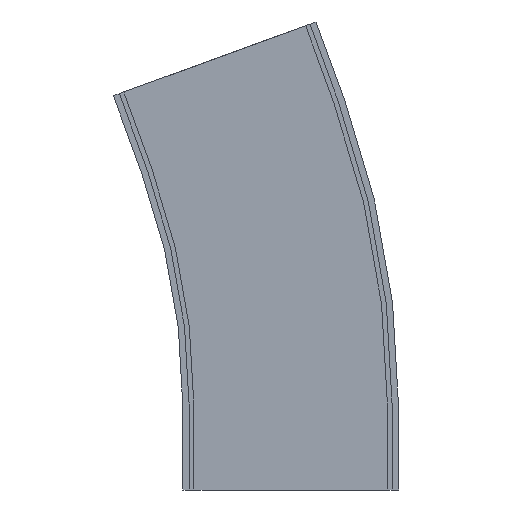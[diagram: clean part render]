
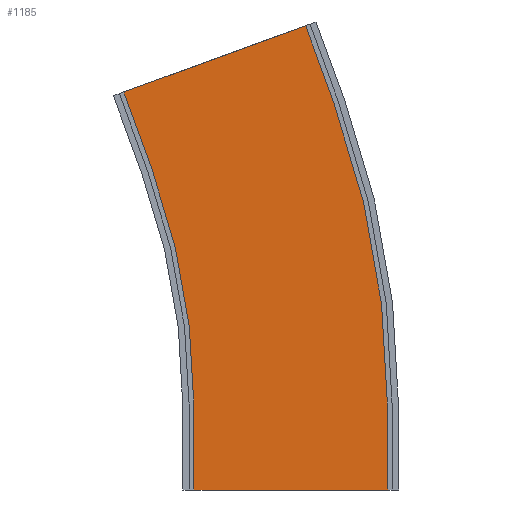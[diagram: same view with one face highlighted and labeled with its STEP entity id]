
A CAD part, left-side view. The second image highlights one B-rep face of the part: STEP entity #1185.
In plain terms, the highlighted planar face has unit normal (-1, 0, 0).
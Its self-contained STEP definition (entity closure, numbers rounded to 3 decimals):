
#8 = DIRECTION ( 'NONE',  ( 0., 0., 1. ) ) ;
#36 = EDGE_CURVE ( 'NONE', #846, #225, #151, .T. ) ;
#59 = PLANE ( 'NONE',  #1272 ) ;
#67 = LINE ( 'NONE', #1229, #285 ) ;
#76 = VERTEX_POINT ( 'NONE', #153 ) ;
#97 = EDGE_CURVE ( 'NONE', #76, #884, #67, .T. ) ;
#126 = VECTOR ( 'NONE', #425, 1000. ) ;
#137 = ORIENTED_EDGE ( 'NONE', *, *, #290, .T. ) ;
#151 = LINE ( 'NONE', #668, #484 ) ;
#153 = CARTESIAN_POINT ( 'NONE',  ( -249.5, 87.71, 202.561 ) ) ;
#164 = CIRCLE ( 'NONE', #341, 561.25 ) ;
#186 = DIRECTION ( 'NONE',  ( 0., 0., 1. ) ) ;
#200 = ORIENTED_EDGE ( 'NONE', *, *, #97, .F. ) ;
#225 = VERTEX_POINT ( 'NONE', #596 ) ;
#250 = ORIENTED_EDGE ( 'NONE', *, *, #1189, .F. ) ;
#278 = DIRECTION ( 'NONE',  ( 1., 0., 0. ) ) ;
#285 = VECTOR ( 'NONE', #680, 1000. ) ;
#290 = EDGE_CURVE ( 'NONE', #982, #379, #164, .T. ) ;
#298 = CARTESIAN_POINT ( 'NONE',  ( -249.5, -27.402, 244.459 ) ) ;
#341 = AXIS2_PLACEMENT_3D ( 'NONE', #1135, #1243, #186 ) ;
#344 = LINE ( 'NONE', #1363, #889 ) ;
#379 = VERTEX_POINT ( 'NONE', #298 ) ;
#400 = CIRCLE ( 'NONE', #1372, 438.75 ) ;
#425 = DIRECTION ( 'NONE',  ( 0., 0., -1. ) ) ;
#440 = EDGE_CURVE ( 'NONE', #846, #76, #400, .T. ) ;
#469 = DIRECTION ( 'NONE',  ( 0., -1., 0. ) ) ;
#484 = VECTOR ( 'NONE', #771, 1000. ) ;
#494 = VECTOR ( 'NONE', #469, 1000. ) ;
#498 = ORIENTED_EDGE ( 'NONE', *, *, #764, .T. ) ;
#573 = CARTESIAN_POINT ( 'NONE',  ( -249.5, 105.666, 251.895 ) ) ;
#577 = CARTESIAN_POINT ( 'NONE',  ( -249.5, 61.25, 52.5 ) ) ;
#596 = CARTESIAN_POINT ( 'NONE',  ( -249.5, 61.25, 0. ) ) ;
#601 = CARTESIAN_POINT ( 'NONE',  ( -249.5, -61.25, 0. ) ) ;
#634 = ORIENTED_EDGE ( 'NONE', *, *, #1057, .T. ) ;
#648 = DIRECTION ( 'NONE',  ( 0., 0.342, 0.94 ) ) ;
#668 = CARTESIAN_POINT ( 'NONE',  ( -249.5, 61.25, 52.5 ) ) ;
#680 = DIRECTION ( 'NONE',  ( 0., 0.342, 0.94 ) ) ;
#712 = LINE ( 'NONE', #601, #494 ) ;
#764 = EDGE_CURVE ( 'NONE', #379, #1268, #947, .T. ) ;
#771 = DIRECTION ( 'NONE',  ( 0., 0., -1. ) ) ;
#772 = ORIENTED_EDGE ( 'NONE', *, *, #1035, .F. ) ;
#774 = CARTESIAN_POINT ( 'NONE',  ( -249.5, -27.402, 244.459 ) ) ;
#818 = CARTESIAN_POINT ( 'NONE',  ( -249.5, -61.25, 0. ) ) ;
#827 = FACE_OUTER_BOUND ( 'NONE', #851, .T. ) ;
#846 = VERTEX_POINT ( 'NONE', #577 ) ;
#851 = EDGE_LOOP ( 'NONE', ( #634, #250, #137, #498, #772, #200, #1152, #949 ) ) ;
#884 = VERTEX_POINT ( 'NONE', #573 ) ;
#885 = CARTESIAN_POINT ( 'NONE',  ( -249.5, -61.25, 52.5 ) ) ;
#889 = VECTOR ( 'NONE', #1032, 1000. ) ;
#925 = CARTESIAN_POINT ( 'NONE',  ( -249.5, -61.25, 52.5 ) ) ;
#947 = LINE ( 'NONE', #774, #980 ) ;
#949 = ORIENTED_EDGE ( 'NONE', *, *, #36, .T. ) ;
#980 = VECTOR ( 'NONE', #648, 1000. ) ;
#982 = VERTEX_POINT ( 'NONE', #885 ) ;
#1031 = CARTESIAN_POINT ( 'NONE',  ( -249.5, -9.446, 293.793 ) ) ;
#1032 = DIRECTION ( 'NONE',  ( 0., -0.94, 0.342 ) ) ;
#1035 = EDGE_CURVE ( 'NONE', #884, #1268, #344, .T. ) ;
#1057 = EDGE_CURVE ( 'NONE', #225, #1184, #712, .T. ) ;
#1084 = DIRECTION ( 'NONE',  ( -1., 0., 0. ) ) ;
#1135 = CARTESIAN_POINT ( 'NONE',  ( -249.5, 500., 52.5 ) ) ;
#1152 = ORIENTED_EDGE ( 'NONE', *, *, #440, .F. ) ;
#1180 = CARTESIAN_POINT ( 'NONE',  ( -249.5, 500., 52.5 ) ) ;
#1184 = VERTEX_POINT ( 'NONE', #818 ) ;
#1185 = ADVANCED_FACE ( 'NONE', ( #827 ), #59, .F. ) ;
#1189 = EDGE_CURVE ( 'NONE', #982, #1184, #1283, .T. ) ;
#1229 = CARTESIAN_POINT ( 'NONE',  ( -249.5, 87.71, 202.561 ) ) ;
#1243 = DIRECTION ( 'NONE',  ( -1., 0., 0. ) ) ;
#1268 = VERTEX_POINT ( 'NONE', #1031 ) ;
#1272 = AXIS2_PLACEMENT_3D ( 'NONE', #925, #278, #1404 ) ;
#1281 = CARTESIAN_POINT ( 'NONE',  ( -249.5, -61.25, 52.5 ) ) ;
#1283 = LINE ( 'NONE', #1281, #126 ) ;
#1363 = CARTESIAN_POINT ( 'NONE',  ( -249.5, -9.446, 293.793 ) ) ;
#1372 = AXIS2_PLACEMENT_3D ( 'NONE', #1180, #1084, #8 ) ;
#1404 = DIRECTION ( 'NONE',  ( 0., 1., 0. ) ) ;
